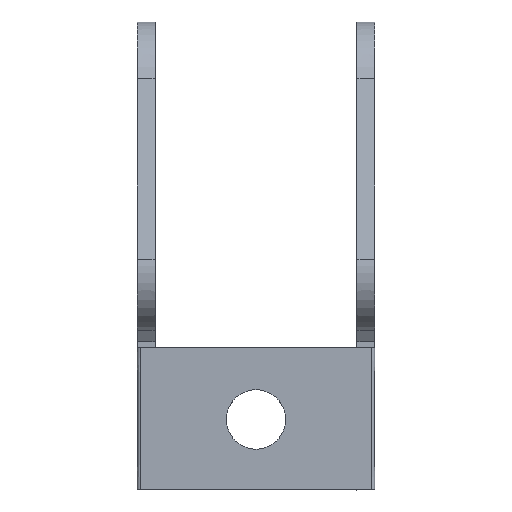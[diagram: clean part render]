
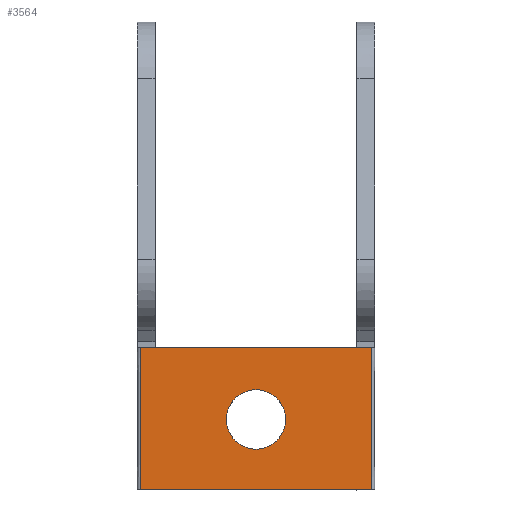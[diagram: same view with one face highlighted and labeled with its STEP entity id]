
A CAD part, top view. The second image highlights one B-rep face of the part: STEP entity #3564.
In plain terms, the highlighted planar face has unit normal (0, 0, 1).
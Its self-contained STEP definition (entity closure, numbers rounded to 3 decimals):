
#10 = AXIS2_PLACEMENT_3D ( 'NONE', #1370, #1375, #1376 ) ;
#28 = EDGE_CURVE ( 'NONE', #1095, #1090, #2576, .T. ) ;
#65 = EDGE_CURVE ( 'NONE', #1039, #1097, #2338, .T. ) ;
#76 = EDGE_CURVE ( 'NONE', #1090, #1034, #2528, .T. ) ;
#77 = EDGE_CURVE ( 'NONE', #1097, #1039, #2334, .T. ) ;
#78 = EDGE_CURVE ( 'NONE', #1067, #1034, #2542, .T. ) ;
#83 = EDGE_CURVE ( 'NONE', #1095, #1067, #2522, .T. ) ;
#580 = DIRECTION ( 'NONE',  ( 1., 0., 0. ) ) ;
#603 = CARTESIAN_POINT ( 'NONE',  ( -39., -82.764, -101.239 ) ) ;
#606 = DIRECTION ( 'NONE',  ( 0., 1., 0. ) ) ;
#608 = CARTESIAN_POINT ( 'NONE',  ( 39., -82.764, -101.239 ) ) ;
#609 = CARTESIAN_POINT ( 'NONE',  ( -10., -59., -101.239 ) ) ;
#610 = CARTESIAN_POINT ( 'NONE',  ( -10., -57.245, -101.239 ) ) ;
#611 = CARTESIAN_POINT ( 'NONE',  ( -9.538, -55.52, -101.239 ) ) ;
#612 = CARTESIAN_POINT ( 'NONE',  ( -8.66, -54., -101.239 ) ) ;
#613 = CARTESIAN_POINT ( 'NONE',  ( -7.783, -52.48, -101.239 ) ) ;
#614 = CARTESIAN_POINT ( 'NONE',  ( -6.52, -51.217, -101.239 ) ) ;
#615 = CARTESIAN_POINT ( 'NONE',  ( -5., -50.34, -101.239 ) ) ;
#616 = CARTESIAN_POINT ( 'NONE',  ( -3.48, -49.462, -101.239 ) ) ;
#617 = CARTESIAN_POINT ( 'NONE',  ( -1.755, -49., -101.239 ) ) ;
#618 = CARTESIAN_POINT ( 'NONE',  ( 0., -49., -101.239 ) ) ;
#619 = CARTESIAN_POINT ( 'NONE',  ( 1.755, -49., -101.239 ) ) ;
#620 = CARTESIAN_POINT ( 'NONE',  ( 3.48, -49.462, -101.239 ) ) ;
#621 = CARTESIAN_POINT ( 'NONE',  ( 5., -50.34, -101.239 ) ) ;
#622 = CARTESIAN_POINT ( 'NONE',  ( 6.52, -51.217, -101.239 ) ) ;
#623 = CARTESIAN_POINT ( 'NONE',  ( 7.783, -52.48, -101.239 ) ) ;
#624 = CARTESIAN_POINT ( 'NONE',  ( 8.66, -54., -101.239 ) ) ;
#625 = CARTESIAN_POINT ( 'NONE',  ( 9.538, -55.52, -101.239 ) ) ;
#626 = CARTESIAN_POINT ( 'NONE',  ( 10., -57.245, -101.239 ) ) ;
#628 = DIRECTION ( 'NONE',  ( 1., 0., 0. ) ) ;
#629 = CARTESIAN_POINT ( 'NONE',  ( -40., -34.764, -101.239 ) ) ;
#658 = CARTESIAN_POINT ( 'NONE',  ( 10., -59., -101.239 ) ) ;
#683 = CARTESIAN_POINT ( 'NONE',  ( 10., -59., -101.239 ) ) ;
#684 = CARTESIAN_POINT ( 'NONE',  ( 10., -60.755, -101.239 ) ) ;
#685 = CARTESIAN_POINT ( 'NONE',  ( 9.538, -62.48, -101.239 ) ) ;
#686 = CARTESIAN_POINT ( 'NONE',  ( 8.66, -64., -101.239 ) ) ;
#687 = CARTESIAN_POINT ( 'NONE',  ( 7.783, -65.52, -101.239 ) ) ;
#688 = CARTESIAN_POINT ( 'NONE',  ( 6.52, -66.783, -101.239 ) ) ;
#689 = CARTESIAN_POINT ( 'NONE',  ( 5., -67.66, -101.239 ) ) ;
#690 = CARTESIAN_POINT ( 'NONE',  ( 3.48, -68.538, -101.239 ) ) ;
#691 = CARTESIAN_POINT ( 'NONE',  ( 1.755, -69., -101.239 ) ) ;
#692 = CARTESIAN_POINT ( 'NONE',  ( 0., -69., -101.239 ) ) ;
#693 = CARTESIAN_POINT ( 'NONE',  ( -1.755, -69., -101.239 ) ) ;
#694 = CARTESIAN_POINT ( 'NONE',  ( -3.48, -68.538, -101.239 ) ) ;
#695 = CARTESIAN_POINT ( 'NONE',  ( -5., -67.66, -101.239 ) ) ;
#696 = CARTESIAN_POINT ( 'NONE',  ( -6.52, -66.783, -101.239 ) ) ;
#697 = CARTESIAN_POINT ( 'NONE',  ( -7.783, -65.52, -101.239 ) ) ;
#698 = CARTESIAN_POINT ( 'NONE',  ( -8.66, -64., -101.239 ) ) ;
#699 = CARTESIAN_POINT ( 'NONE',  ( -9.538, -62.48, -101.239 ) ) ;
#700 = CARTESIAN_POINT ( 'NONE',  ( -10., -60.755, -101.239 ) ) ;
#731 = CARTESIAN_POINT ( 'NONE',  ( -10., -59., -101.239 ) ) ;
#1014 = DIRECTION ( 'NONE',  ( 0., 1., 0. ) ) ;
#1025 = CARTESIAN_POINT ( 'NONE',  ( -39., -82.764, -101.239 ) ) ;
#1034 = VERTEX_POINT ( 'NONE', #3394 ) ;
#1039 = VERTEX_POINT ( 'NONE', #3514 ) ;
#1067 = VERTEX_POINT ( 'NONE', #3408 ) ;
#1090 = VERTEX_POINT ( 'NONE', #3427 ) ;
#1095 = VERTEX_POINT ( 'NONE', #3422 ) ;
#1097 = VERTEX_POINT ( 'NONE', #3276 ) ;
#1370 = CARTESIAN_POINT ( 'NONE',  ( -39., -82.764, -101.239 ) ) ;
#1374 = PLANE ( 'NONE',  #10 ) ;
#1375 = DIRECTION ( 'NONE',  ( 0., 0., -1. ) ) ;
#1376 = DIRECTION ( 'NONE',  ( 0., 1., 0. ) ) ;
#2334 = B_SPLINE_CURVE_WITH_KNOTS ( 'NONE', 3,
 ( #658, #626, #625, #624, #623, #622, #621, #620, #619, #618, #617, #616, #615, #614, #613, #612, #611, #610, #609 ),
 .UNSPECIFIED., .F., .F.,
 ( 4, 3, 3, 3, 3, 3, 4 ),
 ( -0.029, -0.023, -0.018, -0.013, -0.008, -0.003, 0.003 ),
 .UNSPECIFIED. ) ;
#2338 = B_SPLINE_CURVE_WITH_KNOTS ( 'NONE', 3,
 ( #731, #700, #699, #698, #697, #696, #695, #694, #693, #692, #691, #690, #689, #688, #687, #686, #685, #684, #683 ),
 .UNSPECIFIED., .F., .F.,
 ( 4, 3, 3, 3, 3, 3, 4 ),
 ( -0.029, -0.023, -0.018, -0.013, -0.008, -0.003, 0.003 ),
 .UNSPECIFIED. ) ;
#2400 = FACE_BOUND ( 'NONE', #2838, .T. ) ;
#2402 = FACE_OUTER_BOUND ( 'NONE', #2774, .T. ) ;
#2518 = VECTOR ( 'NONE', #580, 1000. ) ;
#2522 = LINE ( 'NONE', #603, #2518 ) ;
#2527 = VECTOR ( 'NONE', #628, 1000. ) ;
#2528 = LINE ( 'NONE', #629, #2527 ) ;
#2532 = VECTOR ( 'NONE', #606, 1000. ) ;
#2542 = LINE ( 'NONE', #608, #2532 ) ;
#2575 = VECTOR ( 'NONE', #1014, 1000. ) ;
#2576 = LINE ( 'NONE', #1025, #2575 ) ;
#2602 = ORIENTED_EDGE ( 'NONE', *, *, #77, .F. ) ;
#2603 = ORIENTED_EDGE ( 'NONE', *, *, #65, .F. ) ;
#2604 = ORIENTED_EDGE ( 'NONE', *, *, #78, .T. ) ;
#2605 = ORIENTED_EDGE ( 'NONE', *, *, #76, .F. ) ;
#2606 = ORIENTED_EDGE ( 'NONE', *, *, #28, .F. ) ;
#2607 = ORIENTED_EDGE ( 'NONE', *, *, #83, .T. ) ;
#2774 = EDGE_LOOP ( 'NONE', ( #2604, #2605, #2606, #2607 ) ) ;
#2838 = EDGE_LOOP ( 'NONE', ( #2602, #2603 ) ) ;
#3276 = CARTESIAN_POINT ( 'NONE',  ( 10., -59., -101.239 ) ) ;
#3394 = CARTESIAN_POINT ( 'NONE',  ( 39., -34.764, -101.239 ) ) ;
#3408 = CARTESIAN_POINT ( 'NONE',  ( 39., -82.764, -101.239 ) ) ;
#3422 = CARTESIAN_POINT ( 'NONE',  ( -39., -82.764, -101.239 ) ) ;
#3427 = CARTESIAN_POINT ( 'NONE',  ( -39., -34.764, -101.239 ) ) ;
#3514 = CARTESIAN_POINT ( 'NONE',  ( -10., -59., -101.239 ) ) ;
#3564 = ADVANCED_FACE ( 'NONE', ( #2400, #2402 ), #1374, .F. ) ;
